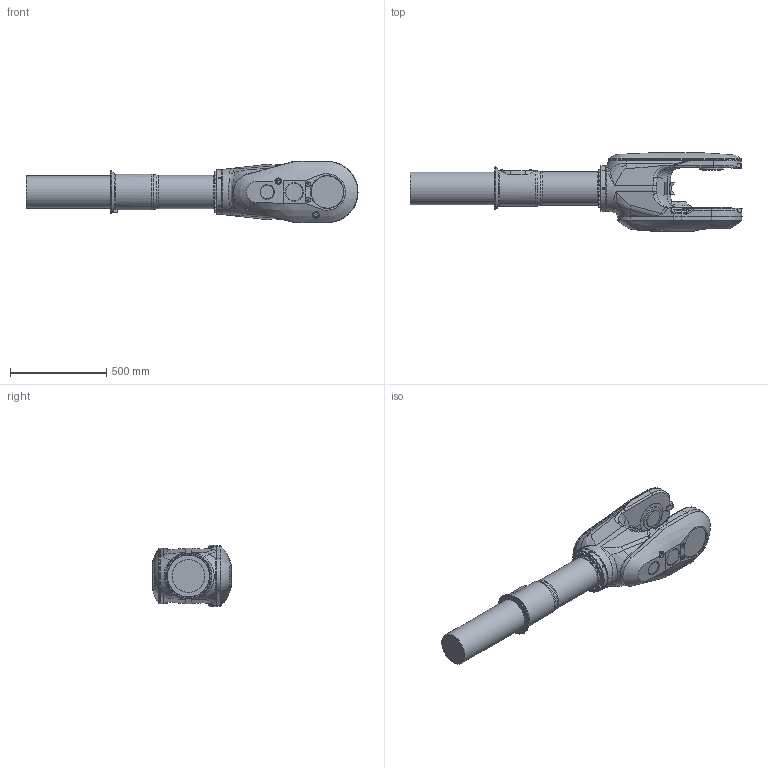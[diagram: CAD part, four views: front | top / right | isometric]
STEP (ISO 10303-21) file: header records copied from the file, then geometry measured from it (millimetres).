
FILE_DESCRIPTION (( 'STEP AP214' ), '1' );
FILE_NAME ('IRB6740-MH3_260kg-300_OC_00_LINK04_CAD.step', '2026-05-07T13:29:07', ( '' ), ( '' ), 'SwSTEP 2.0', 'SolidWorks 2024', '' );
FILE_SCHEMA (( 'AUTOMOTIVE_DESIGN' ));
Length unit declared in the file: millimetre
Products named in the file (1): IRB6740-MH3_260kg-300_OC_00_LINK04_CAD
Bounding box: 1724.5 x 408.5 x 318 mm (x, y, z)
Volume: 70441230.7 mm3; surface area: 1656701.9 mm2
Topology: 1 solids, 2 shells, 664 faces, 1631 edges, 1030 vertices
Faces by surface type: plane 336, cylinder 115, bspline 106, cone 83, torus 22, sphere 2
Full cylindrical faces by diameter (mm): 0.1 x1, 6.8 x6, 8.3 x2, 10.5 x1, 12 x3, 17.9 x2, 18 x2, 18.27 x16, 20.8 x2, 24 x1, 27 x2, 28.01 x1, 28.5 x2, 62 x1, 92 x1, 115 x1, 124 x1, 163 x1, 165 x1, 170 x2, 172 x2, 185 x1, 186.4 x1, 188.4 x1, 191.4 x1, 192.4 x1, 195 x1, 234 x1
Entity records: 35042 total; most frequent: CARTESIAN_POINT 14138, ORIENTED_EDGE 2934, DIRECTION 2389, EDGE_CURVE 1467, VERTEX_POINT 993, AXIS2_PLACEMENT_3D 873, EDGE_LOOP 852, FACE_OUTER_BOUND 735
